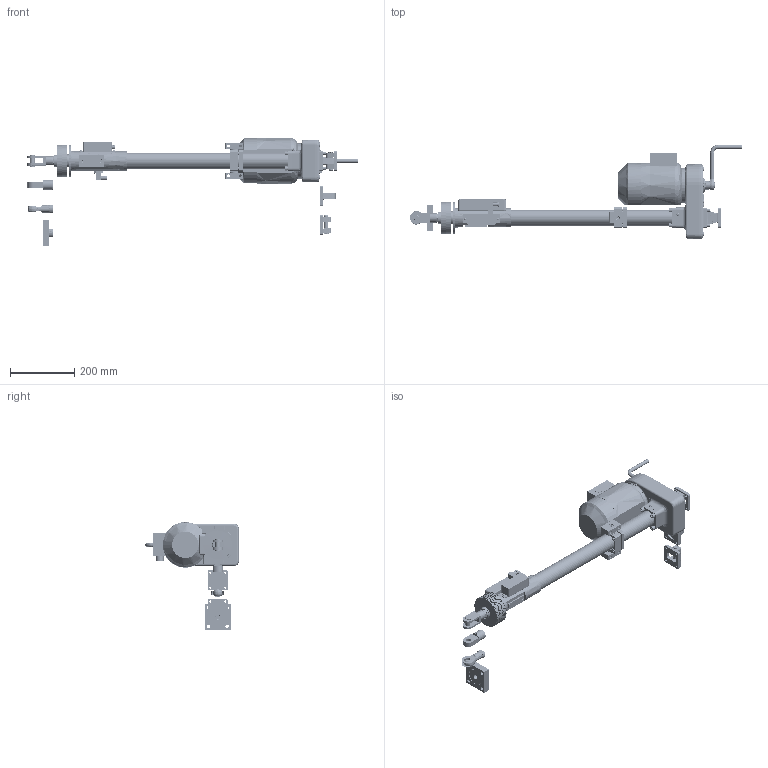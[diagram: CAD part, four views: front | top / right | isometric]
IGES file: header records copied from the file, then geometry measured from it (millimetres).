
Start section: SolidWorks IGES file using analytic representation for surfaces
Global section: file name: E:\Ïðîåêòíàÿ äîêóìåíòàöèÿ\ïðîåêòû\â ðàçðàáîòêå\êóçíåöîâ\ÌÝÏ-Ñ1\Ðåêëàìà\Ñ1-500.IGS; native system: SolidWorks 2012; preprocessor: SolidWorks 2012; author: Êóçíåöîâ; date: 131211.140732; units: millimetre
Bounding box: 1035.12 x 293.4 x 336 mm (x, y, z)
Surface area: 923346 mm2 (no closed solid volume)
Topology: 0 solids, 0 shells, 2172 faces, 48260 edges, 48248 vertices
Faces by surface type: revolution 1178, bspline 994
